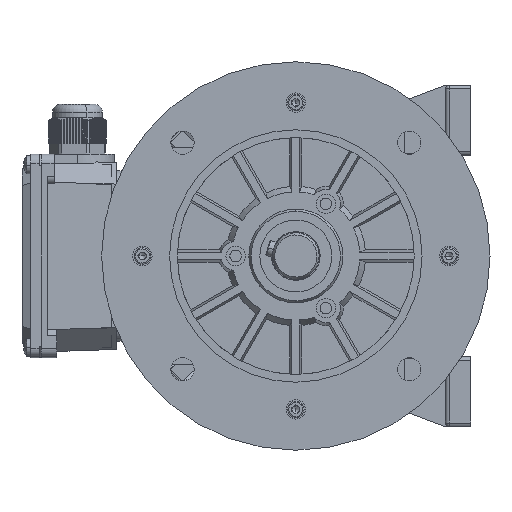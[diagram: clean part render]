
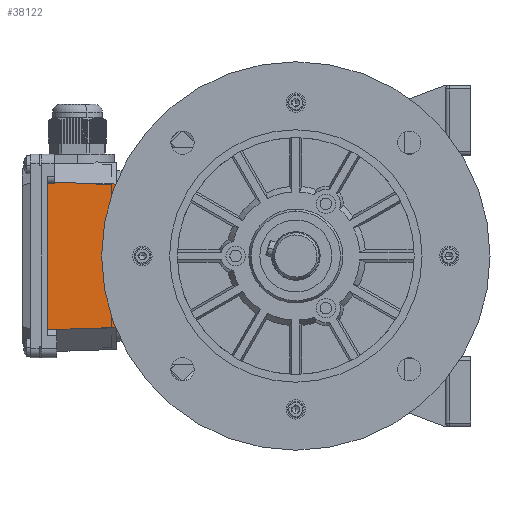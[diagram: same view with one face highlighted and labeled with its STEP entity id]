
A CAD part, left-side view. The second image highlights one B-rep face of the part: STEP entity #38122.
In plain terms, the highlighted planar face has unit normal (-0.999, -0.035, 0.001) as drawn and (-0.035, -0.001, 0.999) by its records, which use the part's own axes.
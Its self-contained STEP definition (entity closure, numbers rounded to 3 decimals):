
#38093 = ORIENTED_EDGE ( 'NONE', *, *, #38095, .T. ) ;
#38095 = EDGE_CURVE ( 'NONE', #38142, #38096, #39300, .T. ) ;
#38096 = VERTEX_POINT ( 'NONE', #39291 ) ;
#38097 = ORIENTED_EDGE ( 'NONE', *, *, #38098, .F. ) ;
#38098 = EDGE_CURVE ( 'NONE', #38099, #38096, #39285, .T. ) ;
#38099 = VERTEX_POINT ( 'NONE', #39278 ) ;
#38100 = ORIENTED_EDGE ( 'NONE', *, *, #38102, .F. ) ;
#38102 = EDGE_CURVE ( 'NONE', #38104, #38099, #39273, .T. ) ;
#38104 = VERTEX_POINT ( 'NONE', #39266 ) ;
#38106 = ORIENTED_EDGE ( 'NONE', *, *, #38109, .T. ) ;
#38109 = EDGE_CURVE ( 'NONE', #38104, #38110, #39397, .T. ) ;
#38110 = VERTEX_POINT ( 'NONE', #39405 ) ;
#38111 = ORIENTED_EDGE ( 'NONE', *, *, #38112, .F. ) ;
#38112 = EDGE_CURVE ( 'NONE', #38129, #38110, #39403, .T. ) ;
#38122 = ADVANCED_FACE ( 'NONE', ( #39359 ), #39353, .F. ) ;
#38124 = EDGE_LOOP ( 'NONE', ( #38125, #38131, #38137, #38093, #38097, #38100, #38106, #38111 ) ) ;
#38125 = ORIENTED_EDGE ( 'NONE', *, *, #38126, .F. ) ;
#38126 = EDGE_CURVE ( 'NONE', #38127, #38129, #39354, .T. ) ;
#38127 = VERTEX_POINT ( 'NONE', #39470 ) ;
#38129 = VERTEX_POINT ( 'NONE', #39467 ) ;
#38131 = ORIENTED_EDGE ( 'NONE', *, *, #38134, .F. ) ;
#38134 = EDGE_CURVE ( 'NONE', #38136, #38127, #39461, .T. ) ;
#38136 = VERTEX_POINT ( 'NONE', #39455 ) ;
#38137 = ORIENTED_EDGE ( 'NONE', *, *, #38139, .F. ) ;
#38139 = EDGE_CURVE ( 'NONE', #38142, #38136, #39450, .T. ) ;
#38142 = VERTEX_POINT ( 'NONE', #39442 ) ;
#39266 = CARTESIAN_POINT ( 'NONE',  ( 31.875, -37.099, 49.107 ) ) ;
#39268 = DIRECTION ( 'NONE',  ( 0., -1., -0.001 ) ) ;
#39270 = VECTOR ( 'NONE', #39268, 1000. ) ;
#39271 = CARTESIAN_POINT ( 'NONE',  ( 31.875, -49.393, 49.092 ) ) ;
#39273 = LINE ( 'NONE', #39271, #39270 ) ;
#39278 = CARTESIAN_POINT ( 'NONE',  ( 31.875, -37.897, 49.106 ) ) ;
#39281 = DIRECTION ( 'NONE',  ( -0.999, 0.027, -0.035 ) ) ;
#39282 = VECTOR ( 'NONE', #39281, 1000. ) ;
#39284 = CARTESIAN_POINT ( 'NONE',  ( 40.501, -38.128, 49.407 ) ) ;
#39285 = LINE ( 'NONE', #39284, #39282 ) ;
#39291 = CARTESIAN_POINT ( 'NONE',  ( 0., -37.04, 47.995 ) ) ;
#39293 = DIRECTION ( 'NONE',  ( 0., -1., -0.001 ) ) ;
#39295 = VECTOR ( 'NONE', #39293, 1000. ) ;
#39297 = CARTESIAN_POINT ( 'NONE',  ( 0., 87.477, 48.147 ) ) ;
#39300 = LINE ( 'NONE', #39297, #39295 ) ;
#39338 = DIRECTION ( 'NONE',  ( 0.999, 0.035, 0.035 ) ) ;
#39339 = VECTOR ( 'NONE', #39338, 1000. ) ;
#39341 = CARTESIAN_POINT ( 'NONE',  ( 40.497, 38.076, 49.5 ) ) ;
#39346 = DIRECTION ( 'NONE',  ( -0.999, 0., -0.035 ) ) ;
#39348 = DIRECTION ( 'NONE',  ( 0.035, 0.001, -0.999 ) ) ;
#39350 = CARTESIAN_POINT ( 'NONE',  ( 43.553, -49.393, 49.5 ) ) ;
#39351 = AXIS2_PLACEMENT_3D ( 'NONE', #39350, #39348, #39346 ) ;
#39353 = PLANE ( 'NONE',  #39351 ) ;
#39354 = LINE ( 'NONE', #39341, #39339 ) ;
#39359 = FACE_OUTER_BOUND ( 'NONE', #38124, .T. ) ;
#39371 = DIRECTION ( 'NONE',  ( 0., -1., -0.001 ) ) ;
#39372 = VECTOR ( 'NONE', #39371, 1000. ) ;
#39374 = CARTESIAN_POINT ( 'NONE',  ( 35.5, -49.393, 49.219 ) ) ;
#39383 = CARTESIAN_POINT ( 'NONE',  ( 35.5, -37.116, 49.234 ) ) ;
#39385 = CARTESIAN_POINT ( 'NONE',  ( 34.294, -37.11, 49.192 ) ) ;
#39386 = CARTESIAN_POINT ( 'NONE',  ( 33.086, -37.104, 49.15 ) ) ;
#39388 = CARTESIAN_POINT ( 'NONE',  ( 31.875, -37.099, 49.107 ) ) ;
#39397 =( BOUNDED_CURVE ( )  B_SPLINE_CURVE ( 3, ( #39388, #39386, #39385, #39383 ),
 .UNSPECIFIED., .F., .T. ) 
 B_SPLINE_CURVE_WITH_KNOTS ( ( 4, 4 ),
 ( 1.693, 1.726 ),
 .UNSPECIFIED. ) 
 CURVE ( )  GEOMETRIC_REPRESENTATION_ITEM ( )  RATIONAL_B_SPLINE_CURVE ( ( 1., 1., 1., 1. ) ) 
 REPRESENTATION_ITEM ( '' )  );
#39403 = LINE ( 'NONE', #39374, #39372 ) ;
#39405 = CARTESIAN_POINT ( 'NONE',  ( 35.5, -37.116, 49.234 ) ) ;
#39442 = CARTESIAN_POINT ( 'NONE',  ( 0., 36.95, 48.085 ) ) ;
#39445 = DIRECTION ( 'NONE',  ( 0.999, 0.027, 0.035 ) ) ;
#39446 = VECTOR ( 'NONE', #39445, 1000. ) ;
#39448 = CARTESIAN_POINT ( 'NONE',  ( 40.5, 38.036, 49.5 ) ) ;
#39450 = LINE ( 'NONE', #39448, #39446 ) ;
#39455 = CARTESIAN_POINT ( 'NONE',  ( 30.5, 37.767, 49.151 ) ) ;
#39457 = DIRECTION ( 'NONE',  ( 0., -1., -0.001 ) ) ;
#39459 = VECTOR ( 'NONE', #39457, 1000. ) ;
#39460 = CARTESIAN_POINT ( 'NONE',  ( 30.5, -49.393, 49.044 ) ) ;
#39461 = LINE ( 'NONE', #39460, #39459 ) ;
#39467 = CARTESIAN_POINT ( 'NONE',  ( 35.5, 37.901, 49.325 ) ) ;
#39470 = CARTESIAN_POINT ( 'NONE',  ( 30.5, 37.727, 49.151 ) ) ;
